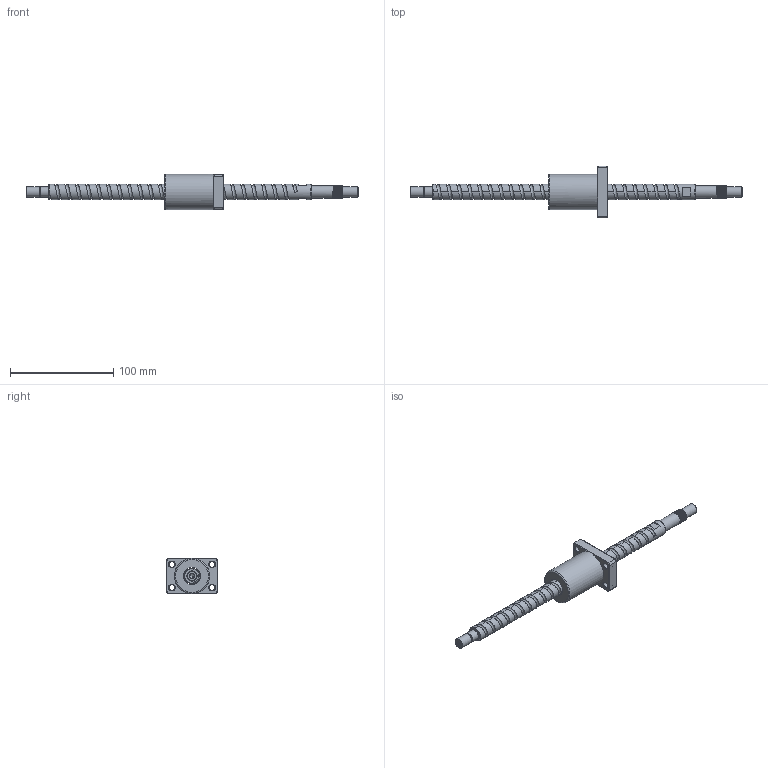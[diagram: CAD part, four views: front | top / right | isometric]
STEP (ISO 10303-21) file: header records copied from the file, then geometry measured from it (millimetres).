
FILE_DESCRIPTION (( 'STEP AP203' ), '1' );
FILE_NAME ('XSVR01510B1DGC5-321-P1.step', '2024-06-03T05:10:13', ( '' ), ( '' ), 'SwSTEP 2.0', 'SolidWorks 2022', '' );
FILE_SCHEMA (( 'CONFIG_CONTROL_DESIGN' ));
Length unit declared in the file: millimetre
Products named in the file (1): XSVR01510B1DGC5-321-P1
Bounding box: 321 x 50 x 34 mm (x, y, z)
Volume: 92081.8 mm3; surface area: 29502.3 mm2
Topology: 2 solids, 2 shells, 154 faces, 410 edges, 266 vertices
Faces by surface type: cylinder 77, plane 43, cone 15, bspline 10, torus 9
Full cylindrical faces by diameter (mm): 4 x1, 4.2 x15, 5 x6, 5.5 x4, 9.5 x4, 9.6 x1, 10 x3, 12 x9, 15 x24, 16.7 x1, 34 x1
Entity records: 15388 total; most frequent: CARTESIAN_POINT 13264, ORIENTED_EDGE 402, DIRECTION 391, EDGE_CURVE 201, AXIS2_PLACEMENT_3D 168, EDGE_LOOP 153, VERTEX_POINT 146, FACE_OUTER_BOUND 120
